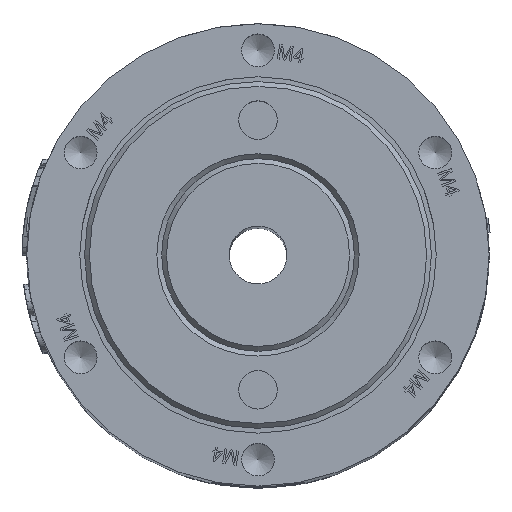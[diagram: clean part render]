
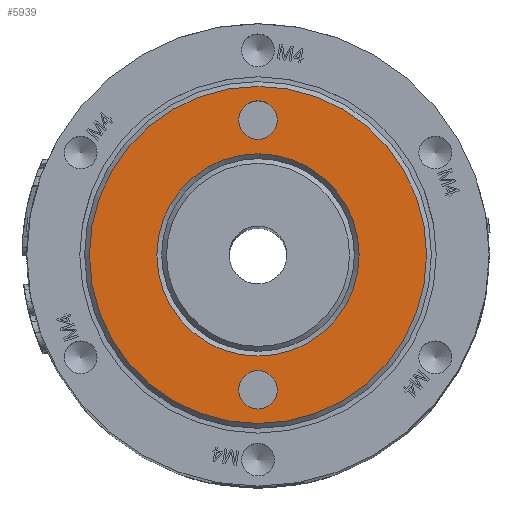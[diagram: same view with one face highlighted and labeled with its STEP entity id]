
A CAD part, top view. The second image highlights one B-rep face of the part: STEP entity #5939.
In plain terms, the highlighted planar face has unit normal (0, 0, 1).
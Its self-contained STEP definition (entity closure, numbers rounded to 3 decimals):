
#312=FACE_BOUND('',#13853,.T.);
#313=FACE_BOUND('',#13854,.T.);
#314=FACE_BOUND('',#13855,.T.);
#315=FACE_BOUND('',#13856,.T.);
#924=CIRCLE('',#42864,2.);
#925=CIRCLE('',#42865,2.);
#926=CIRCLE('',#42866,10.5);
#927=CIRCLE('',#42867,17.5);
#2236=PLANE('',#42868);
#5939=ADVANCED_FACE('',(#312,#313,#314,#315),#2236,.T.);
#13853=EDGE_LOOP('',(#21629));
#13854=EDGE_LOOP('',(#21630));
#13855=EDGE_LOOP('',(#21631));
#13856=EDGE_LOOP('',(#21632));
#21629=ORIENTED_EDGE('',*,*,#36152,.T.);
#21630=ORIENTED_EDGE('',*,*,#36153,.T.);
#21631=ORIENTED_EDGE('',*,*,#36154,.T.);
#21632=ORIENTED_EDGE('',*,*,#36155,.T.);
#30331=VERTEX_POINT('',#76944);
#30332=VERTEX_POINT('',#76946);
#30333=VERTEX_POINT('',#76948);
#30334=VERTEX_POINT('',#76950);
#36152=EDGE_CURVE('',#30331,#30331,#924,.T.);
#36153=EDGE_CURVE('',#30332,#30332,#925,.T.);
#36154=EDGE_CURVE('',#30333,#30333,#926,.T.);
#36155=EDGE_CURVE('',#30334,#30334,#927,.T.);
#42864=AXIS2_PLACEMENT_3D('',#76943,#48105,#48106);
#42865=AXIS2_PLACEMENT_3D('',#76945,#48107,#48108);
#42866=AXIS2_PLACEMENT_3D('',#76947,#48109,#48110);
#42867=AXIS2_PLACEMENT_3D('',#76949,#48111,#48112);
#42868=AXIS2_PLACEMENT_3D('',#76951,#48113,#48114);
#48105=DIRECTION('',(0.,0.,-1.));
#48106=DIRECTION('',(1.,0.,0.));
#48107=DIRECTION('',(0.,0.,-1.));
#48108=DIRECTION('',(-1.,0.,0.));
#48109=DIRECTION('',(0.,0.,-1.));
#48110=DIRECTION('',(1.,0.,0.));
#48111=DIRECTION('',(0.,0.,1.));
#48112=DIRECTION('',(1.,0.,0.));
#48113=DIRECTION('',(0.,0.,1.));
#48114=DIRECTION('',(1.,0.,0.));
#76943=CARTESIAN_POINT('',(0.,14.,140.5));
#76944=CARTESIAN_POINT('',(2.,14.,140.5));
#76945=CARTESIAN_POINT('',(0.,-14.,140.5));
#76946=CARTESIAN_POINT('',(-2.,-14.,140.5));
#76947=CARTESIAN_POINT('',(0.,0.,140.5));
#76948=CARTESIAN_POINT('',(10.5,0.,140.5));
#76949=CARTESIAN_POINT('',(0.,0.,140.5));
#76950=CARTESIAN_POINT('',(17.5,0.,140.5));
#76951=CARTESIAN_POINT('',(0.,0.,140.5));
